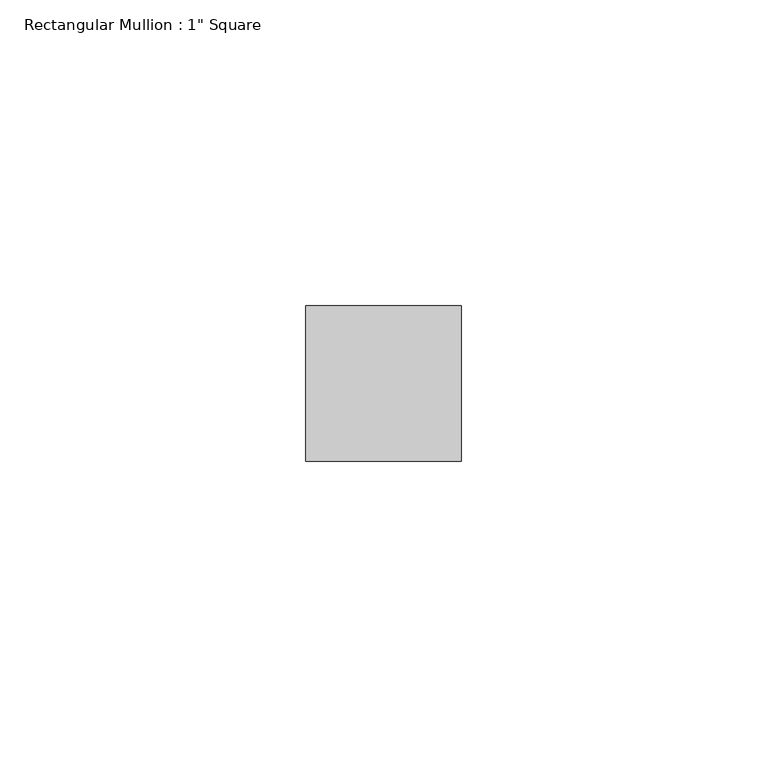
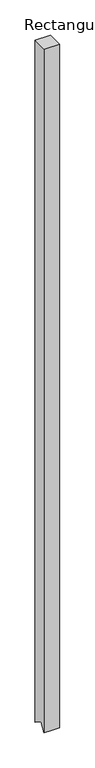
"""IFC4 building model written with IfcOpenShell, lengths in millimetres: member geometry."""

import ifcopenshell
import ifcopenshell.guid

model = None  # the IFC model being written
_history = None  # IfcOwnerHistory: only IFC2X3 demands one
_inside = {}  # id of a spatial element -> (the spatial element, [elements in it])
_under = {}  # id of a project, library or spatial element -> (it, [spatial elements below it])
_declared = {}  # id of a project -> (the project, [libraries it declares])
_typed = {}  # id of a type object -> (the type object, [elements of that type])
_made_of = {}  # id of a material, layer set ... -> (it, [elements and type objects made of it])


def new_model(schema):
    """Start an empty IFC model of exactly this schema.

    Asked for "IFC4X3", IfcOpenShell would pick the latest addendum, in which some entities
    have other attributes; the version numbers below select the first issue.
    IFC2X3 requires an IfcOwnerHistory on every rooted entity: one is made here for all.
    """
    global model, _history
    if schema == "IFC4X3":
        model = ifcopenshell.file(schema_version=(4, 3, 0, 0))
    else:
        model = ifcopenshell.file(schema=schema)
    _inside.clear()
    _under.clear()
    _declared.clear()
    _typed.clear()
    _made_of.clear()
    _history = None
    if model.schema == "IFC2X3":
        org = make("IfcOrganization", Name="unknown")
        user = make(
            "IfcPersonAndOrganization",
            ThePerson=make("IfcPerson", FamilyName="unknown"),
            TheOrganization=org,
        )
        app = make(
            "IfcApplication",
            ApplicationDeveloper=org,
            Version="unknown",
            ApplicationFullName="unknown",
            ApplicationIdentifier="unknown",
        )
        _history = make(
            "IfcOwnerHistory",
            OwningUser=user,
            OwningApplication=app,
            ChangeAction="ADDED",
            CreationDate=0,
        )
    return model


def make(cls, **values):
    """One entity of the class cls with the attributes given. An attribute that is None is left unset."""
    return model.create_entity(
        cls, **{name: value for name, value in values.items() if value is not None}
    )


def rooted(cls, **values):
    """An entity with a GlobalId (a new one), such as an element, a storey or a relation."""
    return make(cls, GlobalId=ifcopenshell.guid.new(), OwnerHistory=_history, **values)


def si_unit(unit_type, name, prefix=None):
    """IfcSIUnit, for example si_unit("LENGTHUNIT", "METRE", prefix="MILLI")."""
    return make("IfcSIUnit", UnitType=unit_type, Prefix=prefix, Name=name)


def assignment(units):
    """IfcUnitAssignment: the units of a project."""
    return None if units is None else make("IfcUnitAssignment", Units=units)


def point(xyz):
    """IfcCartesianPoint."""
    return None if xyz is None else make("IfcCartesianPoint", Coordinates=xyz)


def direction(xyz):
    """IfcDirection."""
    return None if xyz is None else make("IfcDirection", DirectionRatios=xyz)


def frame(location, z_axis=None, x_axis=None):
    """IfcAxis2Placement3D, a coordinate frame: its origin and axes. An axis left out is left unset."""
    return make(
        "IfcAxis2Placement3D",
        Location=point(location),
        Axis=direction(z_axis),
        RefDirection=direction(x_axis),
    )


def origin():
    """The frame at (0, 0, 0) with its axes left unset."""
    return frame((0.0, 0.0, 0.0))


def place(relative_to, where):
    """IfcLocalPlacement: puts the frame where relative to a parent placement (None: the world)."""
    return make(
        "IfcLocalPlacement", PlacementRelTo=relative_to, RelativePlacement=where
    )


def context(
    kind, dimensions, precision=None, world=None, true_north=None, identifier=None
):
    """IfcGeometricRepresentationContext, for example the 3D "Model" context."""
    return make(
        "IfcGeometricRepresentationContext",
        ContextIdentifier=identifier,
        ContextType=kind,
        CoordinateSpaceDimension=dimensions,
        Precision=precision,
        WorldCoordinateSystem=world,
        TrueNorth=true_north,
    )


def project(units=None, contexts=None):
    """IfcProject with its units and contexts."""
    return rooted(
        "IfcProject",
        Name="project",
        RepresentationContexts=contexts,
        UnitsInContext=assignment(units),
    )


def spatial(cls, under=None, at=None, **own):
    """A site, building, storey or space (cls), placed at a placement, below another one or the project."""
    s = rooted(cls, ObjectPlacement=at, **own)
    if under is not None:
        _under.setdefault(under.id(), (under, []))[1].append(s)
    return s


def faces_of(points, faces, orient=None, outer=None):
    """IfcFace entities. A face is a list of loops; a loop is a list of indices into points, from 0.

    orient and outer hold one flag for each loop. By default every Orientation is true, the
    first loop of a face is its IfcFaceOuterBound and the others are IfcFaceBound.
    """
    made = []
    for i, loops in enumerate(faces):
        bounds = []
        for j, loop in enumerate(loops):
            is_outer = j == 0 if outer is None else outer[i][j]
            bounds.append(
                make(
                    "IfcFaceOuterBound" if is_outer else "IfcFaceBound",
                    Bound=make("IfcPolyLoop", Polygon=[points[k] for k in loop]),
                    Orientation=True if orient is None else orient[i][j],
                )
            )
        made.append(make("IfcFace", Bounds=bounds))
    return made


def faceted_brep(points, faces, orient=None, outer=None, voids=None):
    """IfcFacetedBrep: a solid bounded by flat faces; with voids (closed shells), ...WithVoids."""
    shared = [point(p) for p in points]
    hull = make("IfcClosedShell", CfsFaces=faces_of(shared, faces, orient, outer))
    if voids is None:
        return make("IfcFacetedBrep", Outer=hull)
    return make(
        "IfcFacetedBrepWithVoids",
        Outer=hull,
        Voids=[
            make(cls, CfsFaces=faces_of(shared, fs, o, b)) for cls, fs, o, b in voids
        ],
    )


def shape(context_of_items, identifier, shape_type, items):
    """IfcShapeRepresentation: the items that make up one representation, for example the "Body"."""
    return make(
        "IfcShapeRepresentation",
        ContextOfItems=context_of_items,
        RepresentationIdentifier=identifier,
        RepresentationType=shape_type,
        Items=items,
    )


def source(mapping_origin, context_of_items, identifier, shape_type, items):
    """IfcRepresentationMap: a shape defined once, which mapped items show again and again."""
    return make(
        "IfcRepresentationMap",
        MappingOrigin=mapping_origin,
        MappedRepresentation=shape(context_of_items, identifier, shape_type, items),
    )


def transform(
    local_origin,
    x_axis=None,
    y_axis=None,
    z_axis=None,
    scale=None,
    scale2=None,
    scale3=None,
    uniform=True,
):
    """IfcCartesianTransformationOperator3D, or its non-uniform kind. x_axis, y_axis, z_axis: its Axis1, 2, 3."""
    if uniform:
        return make(
            "IfcCartesianTransformationOperator3D",
            Axis1=direction(x_axis),
            Axis2=direction(y_axis),
            LocalOrigin=point(local_origin),
            Scale=scale,
            Axis3=direction(z_axis),
        )
    return make(
        "IfcCartesianTransformationOperator3DnonUniform",
        Axis1=direction(x_axis),
        Axis2=direction(y_axis),
        LocalOrigin=point(local_origin),
        Scale=scale,
        Axis3=direction(z_axis),
        Scale2=scale2,
        Scale3=scale3,
    )


def mapped(mapping_source, mapping_target):
    """IfcMappedItem: shows the shape of a source again, moved by a transform."""
    return make(
        "IfcMappedItem", MappingSource=mapping_source, MappingTarget=mapping_target
    )


def made_of(thing, what):
    """Note that an element or type object is made of a material, layer set ...; save() writes the relation."""
    if what is not None:
        _made_of.setdefault(what.id(), (what, []))[1].append(thing)
    return thing


def element(
    cls,
    number,
    at=None,
    inside=None,
    cuts=None,
    type_object=None,
    material=None,
    context=None,
    identifier="Body",
    shape_type=None,
    held_by="IfcProductDefinitionShape",
    body=None,
    shapes=None,
    **own,
):
    """One element of the class cls, such as IfcWall. Its Tag is "e" and its number.

    at: its placement. inside: the storey or other place that contains it. cuts: it is an
    opening in that element (IfcRelVoidsElement). A single representation is given by context,
    identifier, shape_type and body (its items); several are given by shapes. held_by: the class
    of the entity that holds the representations. save() writes the other relations.
    """
    e = rooted(cls, Tag="e%d" % number, ObjectPlacement=at, **own)
    if body is not None:
        shapes = [shape(context, identifier, shape_type, body)]
    if shapes is not None:
        e.Representation = make(held_by, Representations=shapes)
    if inside is not None:
        _inside.setdefault(inside.id(), (inside, []))[1].append(e)
    if cuts is not None:
        rooted(
            "IfcRelVoidsElement", RelatingBuildingElement=cuts, RelatedOpeningElement=e
        )
    if type_object is not None:
        _typed.setdefault(type_object.id(), (type_object, []))[1].append(e)
    return made_of(e, material)


def aggregate(whole, parts):
    """IfcRelAggregates: a whole, such as a stair, and the parts it consists of."""
    return rooted("IfcRelAggregates", RelatingObject=whole, RelatedObjects=parts)


def save(model, path):
    """Write the relations noted so far, then the file.

    IfcRelAggregates (storeys below a building ...), IfcRelContainedInSpatialStructure (elements
    in a storey), IfcRelDefinesByType, IfcRelAssociatesMaterial and IfcRelDeclares: one each for
    every whole, place, type object, material and project.
    """
    for whole, parts in _under.values():
        aggregate(whole, parts)
    for where, things in _inside.values():
        rooted(
            "IfcRelContainedInSpatialStructure",
            RelatedElements=things,
            RelatingStructure=where,
        )
    for kind, things in _typed.values():
        rooted("IfcRelDefinesByType", RelatedObjects=things, RelatingType=kind)
    for what, things in _made_of.values():
        rooted("IfcRelAssociatesMaterial", RelatedObjects=things, RelatingMaterial=what)
    for by, libraries in _declared.values():
        rooted("IfcRelDeclares", RelatingContext=by, RelatedDefinitions=libraries)
    model.write(path)


def member_0f8f75f6(model_context):
    return source(origin(), model_context, "Body", "Brep", [
        faceted_brep([(12.7, 12.7, 0.0), (-12.7, 12.7, 0.0), (-12.7, -12.7, 0.0), (12.7, -12.7, 0.0), (12.7, 12.7, -1178.5358057), (0.0, 12.7, -1178.5358057), (-12.7, 12.7, -1178.5358057), (-12.7, -3.480121, -1167.6929478), (-12.7, -12.7, -1181.4511986), (0.0, -12.7, -1181.4511986), (12.7, -12.7, -1181.4511986), (12.7, -3.480121, -1167.6929478), (0.0, -3.480121, -1167.6929478)], [[[0, 1, 2, 3]], [[1, 0, 4, 5, 6]], [[2, 1, 6, 7, 8]], [[3, 2, 8, 9, 10]], [[0, 3, 10, 11, 4]], [[4, 11, 12, 5]], [[11, 10, 9, 12]], [[9, 8, 7, 12]], [[7, 6, 5, 12]]]),
    ])


if __name__ == "__main__":
    model = new_model("IFC4")
    model_context = context("Model", 3, world=origin())
    ifc_project = project(units=[si_unit("LENGTHUNIT", "METRE", prefix="MILLI")], contexts=[model_context])
    site = spatial("IfcSite", under=ifc_project)
    building = spatial("IfcBuilding", under=site)
    placement = place(None, origin())
    member_shape = member_0f8f75f6(model_context)
    element("IfcMember", 1, ObjectType="Rectangular Mullion : 1\" Square", at=placement, inside=building, context=model_context, shape_type="MappedRepresentation", body=[
        mapped(member_shape, transform((0.0, 0.0, 0.0), x_axis=(1.0, 0.0, 0.0), y_axis=(0.0, 1.0, 0.0), z_axis=(0.0, 0.0, 1.0))),
    ])
    save(model, "model.ifc")
